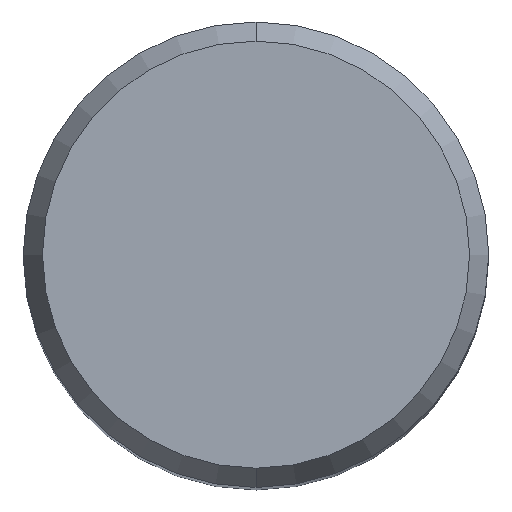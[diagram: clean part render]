
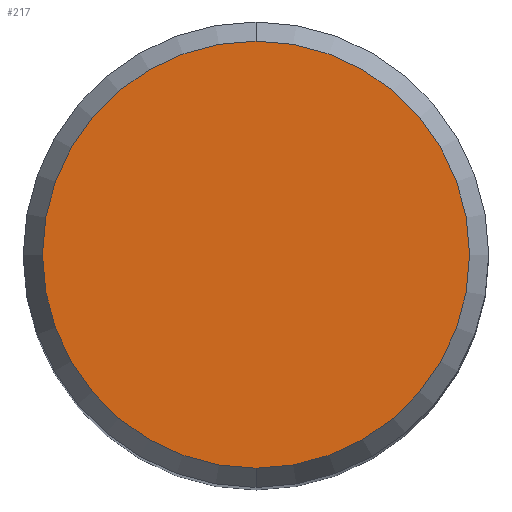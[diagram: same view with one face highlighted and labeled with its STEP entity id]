
A CAD part, top view. The second image highlights one B-rep face of the part: STEP entity #217.
In plain terms, the highlighted planar face has unit normal (0, 0, 1).
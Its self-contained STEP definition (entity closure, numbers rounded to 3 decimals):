
#175=VERTEX_POINT('',#468);
#195=EDGE_CURVE('',#225,#175,#490,.T.);
#217=ADVANCED_FACE('',(#515),#516,.T.);
#225=VERTEX_POINT('',#524);
#229=EDGE_CURVE('',#175,#225,#528,.T.);
#468=CARTESIAN_POINT('',(0.0,6.423,0.0));
#490=CIRCLE('',#863,6.423);
#515=FACE_OUTER_BOUND('',#914,.T.);
#516=PLANE('',#915);
#524=CARTESIAN_POINT('',(0.,-6.423,0.0));
#528=CIRCLE('',#928,6.423);
#863=AXIS2_PLACEMENT_3D('',#1476,#1477,#1478);
#914=EDGE_LOOP('',(#1517,#1518));
#915=AXIS2_PLACEMENT_3D('',#1519,#1520,#1521);
#928=AXIS2_PLACEMENT_3D('',#1522,#1523,#1524);
#1476=CARTESIAN_POINT('',(0.0,0.0,0.0));
#1477=DIRECTION('',(0.0,0.0,-1.0));
#1478=DIRECTION('',(0.0,1.0,0.0));
#1517=ORIENTED_EDGE('',*,*,#229,.F.);
#1518=ORIENTED_EDGE('',*,*,#195,.F.);
#1519=CARTESIAN_POINT('',(0.0,3.211,0.0));
#1520=DIRECTION('',(-0.0,0.0,1.0));
#1521=DIRECTION('',(0.0,-1.0,0.0));
#1522=CARTESIAN_POINT('',(0.0,0.0,0.0));
#1523=DIRECTION('',(0.0,0.0,-1.0));
#1524=DIRECTION('',(0.0,1.0,0.0));
